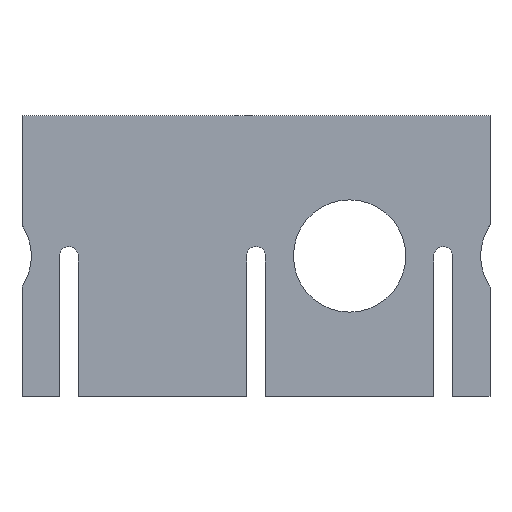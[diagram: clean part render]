
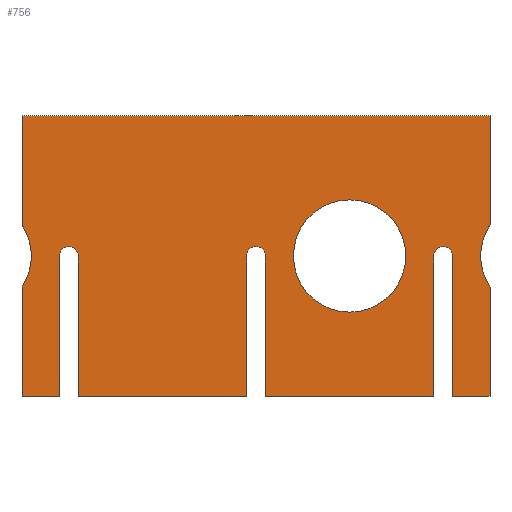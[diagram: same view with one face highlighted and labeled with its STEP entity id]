
A CAD part, top view. The second image highlights one B-rep face of the part: STEP entity #756.
In plain terms, the highlighted planar face has unit normal (0, 0, 1).
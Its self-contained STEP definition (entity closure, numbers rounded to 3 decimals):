
#73=CARTESIAN_POINT('',(130.175,47.625,6.35));
#74=VERTEX_POINT('',#73);
#75=CARTESIAN_POINT('',(111.125,47.625,6.35));
#76=DIRECTION('',(0.0,0.0,-1.0));
#77=DIRECTION('',(-1.0,0.0,0.0));
#78=AXIS2_PLACEMENT_3D('',#75,#76,#77);
#79=CIRCLE('',#78,19.05);
#80=EDGE_CURVE('',#74,#74,#79,.T.);
#111=CARTESIAN_POINT('',(0.0,95.25,6.35));
#112=VERTEX_POINT('',#111);
#119=CARTESIAN_POINT('',(158.75,95.25,6.35));
#120=VERTEX_POINT('',#119);
#121=CARTESIAN_POINT('',(158.75,95.25,6.35));
#122=DIRECTION('',(-1.0,0.0,0.0));
#123=VECTOR('',#122,158.75);
#124=LINE('',#121,#123);
#125=EDGE_CURVE('',#120,#112,#124,.T.);
#150=CARTESIAN_POINT('',(158.75,58.155,6.35));
#151=VERTEX_POINT('',#150);
#152=CARTESIAN_POINT('',(158.75,58.155,6.35));
#153=DIRECTION('',(0.0,1.0,0.0));
#154=VECTOR('',#153,37.095);
#155=LINE('',#152,#154);
#156=EDGE_CURVE('',#151,#120,#155,.T.);
#182=CARTESIAN_POINT('',(158.75,37.095,6.35));
#183=VERTEX_POINT('',#182);
#184=CARTESIAN_POINT('',(174.625,47.625,6.35));
#185=DIRECTION('',(0.0,0.0,-1.0));
#186=DIRECTION('',(0.833,-0.553,0.0));
#187=AXIS2_PLACEMENT_3D('',#184,#185,#186);
#188=CIRCLE('',#187,19.05);
#189=EDGE_CURVE('',#183,#151,#188,.T.);
#214=CARTESIAN_POINT('',(158.75,0.0,6.35));
#215=VERTEX_POINT('',#214);
#216=CARTESIAN_POINT('',(158.75,0.0,6.35));
#217=DIRECTION('',(0.0,1.0,0.0));
#218=VECTOR('',#217,37.095);
#219=LINE('',#216,#218);
#220=EDGE_CURVE('',#215,#183,#219,.T.);
#245=CARTESIAN_POINT('',(146.05,0.0,6.35));
#246=VERTEX_POINT('',#245);
#247=CARTESIAN_POINT('',(146.05,0.0,6.35));
#248=DIRECTION('',(1.0,0.0,0.0));
#249=VECTOR('',#248,12.7);
#250=LINE('',#247,#249);
#251=EDGE_CURVE('',#246,#215,#250,.T.);
#276=CARTESIAN_POINT('',(146.05,47.625,6.35));
#277=VERTEX_POINT('',#276);
#278=CARTESIAN_POINT('',(146.05,47.625,6.35));
#279=DIRECTION('',(0.0,-1.0,0.0));
#280=VECTOR('',#279,47.625);
#281=LINE('',#278,#280);
#282=EDGE_CURVE('',#277,#246,#281,.T.);
#308=CARTESIAN_POINT('',(139.7,47.625,6.35));
#309=VERTEX_POINT('',#308);
#310=CARTESIAN_POINT('',(142.875,47.625,6.35));
#311=DIRECTION('',(0.0,0.0,-1.0));
#312=DIRECTION('',(-1.0,0.0,0.0));
#313=AXIS2_PLACEMENT_3D('',#310,#311,#312);
#314=CIRCLE('',#313,3.175);
#315=EDGE_CURVE('',#309,#277,#314,.T.);
#340=CARTESIAN_POINT('',(139.7,0.0,6.35));
#341=VERTEX_POINT('',#340);
#342=CARTESIAN_POINT('',(139.7,0.0,6.35));
#343=DIRECTION('',(0.0,1.0,0.0));
#344=VECTOR('',#343,47.625);
#345=LINE('',#342,#344);
#346=EDGE_CURVE('',#341,#309,#345,.T.);
#371=CARTESIAN_POINT('',(82.55,0.0,6.35));
#372=VERTEX_POINT('',#371);
#373=CARTESIAN_POINT('',(82.55,0.0,6.35));
#374=DIRECTION('',(1.0,0.0,0.0));
#375=VECTOR('',#374,57.15);
#376=LINE('',#373,#375);
#377=EDGE_CURVE('',#372,#341,#376,.T.);
#402=CARTESIAN_POINT('',(82.55,47.625,6.35));
#403=VERTEX_POINT('',#402);
#404=CARTESIAN_POINT('',(82.55,47.625,6.35));
#405=DIRECTION('',(0.0,-1.0,0.0));
#406=VECTOR('',#405,47.625);
#407=LINE('',#404,#406);
#408=EDGE_CURVE('',#403,#372,#407,.T.);
#434=CARTESIAN_POINT('',(76.2,47.625,6.35));
#435=VERTEX_POINT('',#434);
#436=CARTESIAN_POINT('',(79.375,47.625,6.35));
#437=DIRECTION('',(0.0,0.0,-1.0));
#438=DIRECTION('',(-1.0,0.0,0.0));
#439=AXIS2_PLACEMENT_3D('',#436,#437,#438);
#440=CIRCLE('',#439,3.175);
#441=EDGE_CURVE('',#435,#403,#440,.T.);
#466=CARTESIAN_POINT('',(76.2,0.0,6.35));
#467=VERTEX_POINT('',#466);
#468=CARTESIAN_POINT('',(76.2,0.0,6.35));
#469=DIRECTION('',(0.0,1.0,0.0));
#470=VECTOR('',#469,47.625);
#471=LINE('',#468,#470);
#472=EDGE_CURVE('',#467,#435,#471,.T.);
#497=CARTESIAN_POINT('',(19.05,0.0,6.35));
#498=VERTEX_POINT('',#497);
#499=CARTESIAN_POINT('',(19.05,0.0,6.35));
#500=DIRECTION('',(1.0,0.0,0.0));
#501=VECTOR('',#500,57.15);
#502=LINE('',#499,#501);
#503=EDGE_CURVE('',#498,#467,#502,.T.);
#528=CARTESIAN_POINT('',(19.05,47.625,6.35));
#529=VERTEX_POINT('',#528);
#530=CARTESIAN_POINT('',(19.05,47.625,6.35));
#531=DIRECTION('',(0.0,-1.0,0.0));
#532=VECTOR('',#531,47.625);
#533=LINE('',#530,#532);
#534=EDGE_CURVE('',#529,#498,#533,.T.);
#560=CARTESIAN_POINT('',(12.7,47.625,6.35));
#561=VERTEX_POINT('',#560);
#562=CARTESIAN_POINT('',(15.875,47.625,6.35));
#563=DIRECTION('',(0.0,0.0,-1.0));
#564=DIRECTION('',(-1.0,0.0,0.0));
#565=AXIS2_PLACEMENT_3D('',#562,#563,#564);
#566=CIRCLE('',#565,3.175);
#567=EDGE_CURVE('',#561,#529,#566,.T.);
#592=CARTESIAN_POINT('',(12.7,0.0,6.35));
#593=VERTEX_POINT('',#592);
#594=CARTESIAN_POINT('',(12.7,0.0,6.35));
#595=DIRECTION('',(0.0,1.0,0.0));
#596=VECTOR('',#595,47.625);
#597=LINE('',#594,#596);
#598=EDGE_CURVE('',#593,#561,#597,.T.);
#623=CARTESIAN_POINT('',(0.0,0.0,6.35));
#624=VERTEX_POINT('',#623);
#625=CARTESIAN_POINT('',(0.0,0.0,6.35));
#626=DIRECTION('',(1.0,0.0,0.0));
#627=VECTOR('',#626,12.7);
#628=LINE('',#625,#627);
#629=EDGE_CURVE('',#624,#593,#628,.T.);
#654=CARTESIAN_POINT('',(0.,37.095,6.35));
#655=VERTEX_POINT('',#654);
#656=CARTESIAN_POINT('',(0.,37.095,6.35));
#657=DIRECTION('',(0.0,-1.0,0.0));
#658=VECTOR('',#657,37.095);
#659=LINE('',#656,#658);
#660=EDGE_CURVE('',#655,#624,#659,.T.);
#686=CARTESIAN_POINT('',(0.0,58.155,6.35));
#687=VERTEX_POINT('',#686);
#688=CARTESIAN_POINT('',(-15.875,47.625,6.35));
#689=DIRECTION('',(0.0,0.0,-1.0));
#690=DIRECTION('',(-0.833,0.553,0.0));
#691=AXIS2_PLACEMENT_3D('',#688,#689,#690);
#692=CIRCLE('',#691,19.05);
#693=EDGE_CURVE('',#687,#655,#692,.T.);
#716=CARTESIAN_POINT('',(0.0,95.25,6.35));
#717=DIRECTION('',(0.0,-1.0,0.0));
#718=VECTOR('',#717,37.095);
#719=LINE('',#716,#718);
#720=EDGE_CURVE('',#112,#687,#719,.T.);
#726=CARTESIAN_POINT('',(79.375,40.204,6.35));
#727=DIRECTION('',(0.0,0.0,1.0));
#728=DIRECTION('',(1.0,0.0,0.0));
#729=AXIS2_PLACEMENT_3D('',#726,#727,#728);
#730=PLANE('',#729);
#731=ORIENTED_EDGE('',*,*,#720,.T.);
#732=ORIENTED_EDGE('',*,*,#693,.T.);
#733=ORIENTED_EDGE('',*,*,#660,.T.);
#734=ORIENTED_EDGE('',*,*,#629,.T.);
#735=ORIENTED_EDGE('',*,*,#598,.T.);
#736=ORIENTED_EDGE('',*,*,#567,.T.);
#737=ORIENTED_EDGE('',*,*,#534,.T.);
#738=ORIENTED_EDGE('',*,*,#503,.T.);
#739=ORIENTED_EDGE('',*,*,#472,.T.);
#740=ORIENTED_EDGE('',*,*,#441,.T.);
#741=ORIENTED_EDGE('',*,*,#408,.T.);
#742=ORIENTED_EDGE('',*,*,#377,.T.);
#743=ORIENTED_EDGE('',*,*,#346,.T.);
#744=ORIENTED_EDGE('',*,*,#315,.T.);
#745=ORIENTED_EDGE('',*,*,#282,.T.);
#746=ORIENTED_EDGE('',*,*,#251,.T.);
#747=ORIENTED_EDGE('',*,*,#220,.T.);
#748=ORIENTED_EDGE('',*,*,#189,.T.);
#749=ORIENTED_EDGE('',*,*,#156,.T.);
#750=ORIENTED_EDGE('',*,*,#125,.T.);
#751=EDGE_LOOP('',(#731,#732,#733,#734,#735,#736,#737,#738,#739,#740,#741,#742,#743,#744,#745,#746,#747,#748,#749,#750));
#752=FACE_OUTER_BOUND('',#751,.T.);
#753=ORIENTED_EDGE('',*,*,#80,.T.);
#754=EDGE_LOOP('',(#753));
#755=FACE_BOUND('',#754,.T.);
#756=ADVANCED_FACE('',(#752,#755),#730,.T.);
